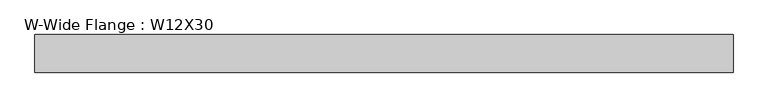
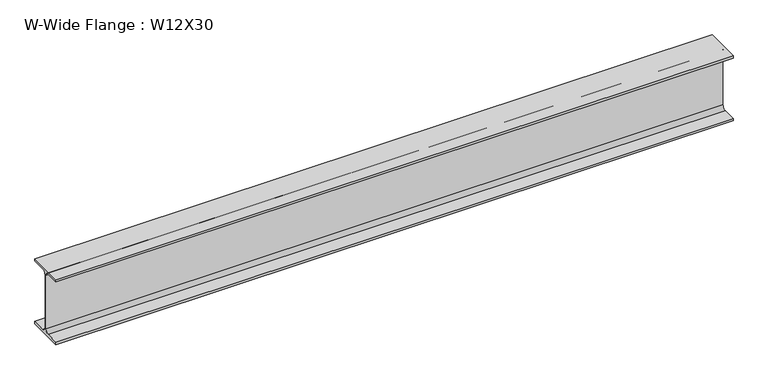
"""IFC4 building model written with IfcOpenShell, lengths in millimetres: beam geometry, W-Wide Flange : W12X30."""

from ifc_helpers import new_model, si_unit, point, frame, frame_2d, origin, place, context, project, spatial, polyline, circle_curve, trimmed, segment, composite_curve, outline, extrude, source, transform, mapped, element, save


def w_wide_flange_w12x30_b48d1e93(model_context):
    return source(origin(), model_context, "Body", "SweptSolid", [
        extrude(outline(composite_curve([segment(polyline([(82.804, -145.034), (82.804, -156.21), (-82.804, -156.21), (-82.804, -145.034), (-20.701, -145.034)]), True, "CONTINUOUS"), segment(trimmed(circle_curve(frame_2d((-20.701, -127.635)), 17.399), [point((-20.701, -145.034))], [point((-3.302, -127.635))], True, "CARTESIAN"), True, "CONTINUOUS"), segment(polyline([(-3.302, -127.635), (-3.302, 127.635)]), True, "CONTINUOUS"), segment(trimmed(circle_curve(frame_2d((-20.701, 127.635)), 17.399), [point((-3.302, 127.635))], [point((-20.701, 145.034))], True, "CARTESIAN"), True, "CONTINUOUS"), segment(polyline([(-20.701, 145.034), (-82.804, 145.034), (-82.804, 156.21), (82.804, 156.21), (82.804, 145.034), (20.701, 145.034)]), True, "CONTINUOUS"), segment(trimmed(circle_curve(frame_2d((20.701, 127.635)), 17.399), [point((20.701, 145.034))], [point((3.302, 127.635))], True, "CARTESIAN"), True, "CONTINUOUS"), segment(polyline([(3.302, 127.635), (3.302, -127.635)]), True, "CONTINUOUS"), segment(trimmed(circle_curve(frame_2d((20.701, -127.635)), 17.399), [point((3.302, -127.635))], [point((20.701, -145.034))], True, "CARTESIAN"), True, "CONTINUOUS"), segment(polyline([(20.701, -145.034), (82.804, -145.034)]), True, "CONTINUOUS")], self_intersect=False)), frame((-1537.4441406, 0.0, 0.0), z_axis=(1.0, 0.0, 0.0), x_axis=(0.0, 1.0, 0.0)), (0.0, 0.0, 1.0), 3074.8882813),
    ])


if __name__ == "__main__":
    model = new_model("IFC4")
    model_context = context("Model", 3, world=origin())
    ifc_project = project(units=[si_unit("LENGTHUNIT", "METRE", prefix="MILLI")], contexts=[model_context])
    site = spatial("IfcSite", under=ifc_project)
    building = spatial("IfcBuilding", under=site)
    placement = place(None, origin())
    w_wide_flange_w12x30_shape = w_wide_flange_w12x30_b48d1e93(model_context)
    element("IfcBeam", 1, ObjectType="W-Wide Flange : W12X30", at=placement, inside=building, context=model_context, shape_type="MappedRepresentation", body=[
        mapped(w_wide_flange_w12x30_shape, transform((0.0, 0.0, 0.0), x_axis=(1.0, 0.0, 0.0), y_axis=(0.0, 1.0, 0.0), z_axis=(0.0, 0.0, 1.0))),
    ])
    save(model, "model.ifc")
